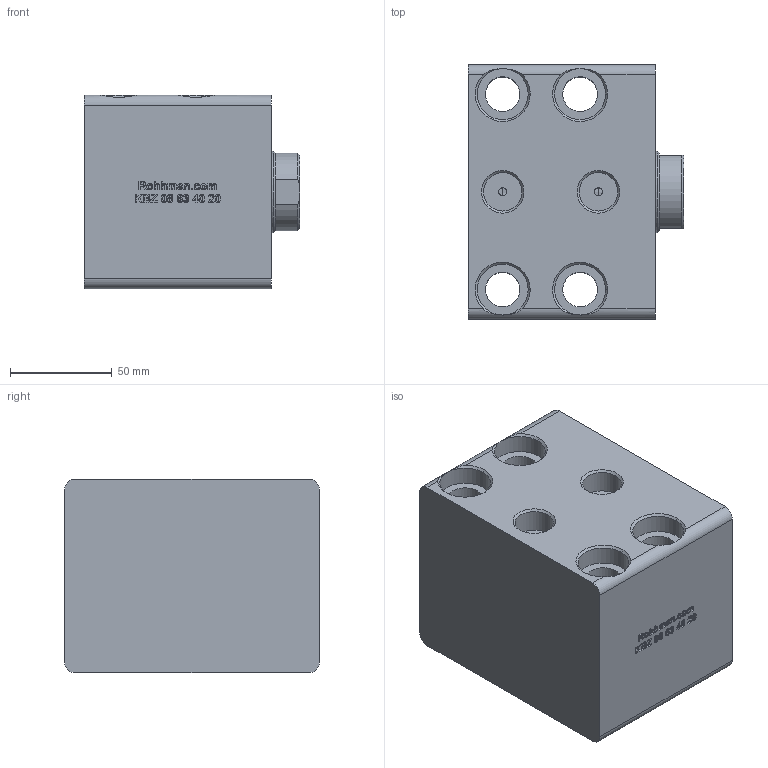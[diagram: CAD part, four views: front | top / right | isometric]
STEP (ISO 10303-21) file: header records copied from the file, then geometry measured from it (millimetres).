
FILE_DESCRIPTION(/* description */ (''),/* implementation_level */ '2;1');
FILE_NAME(/* name */ 'KBZ_08_63_40_20_WEB.step',/* time_stamp */ '2023-09-05T15:58:35+03:00',/* author */ (''),/* organization */ (''),/* preprocessor_version */ 'ST-DEVELOPER v20',/* originating_system */ 'Autodesk Translation Framework v12.9.0.99',/* authorisation */ '');
FILE_SCHEMA (('AUTOMOTIVE_DESIGN { 1 0 10303 214 3 1 1 }'));
Length unit declared in the file: millimetre
Products named in the file (7): KBZ_08_63_40_100_MONTAJ; KAPAK; KAPAK_1; GÖVDE; GÖVDE_1; Ø40_MİL; Bileşen1
Assembly tree (6 placements, depth 3):
  KBZ_08_63_40_100_MONTAJ
    KAPAK
      KAPAK_1
    GÖVDE
      GÖVDE_1
    Ø40_MİL
      Bileşen1
Bounding box: 106 x 125 x 95 mm (x, y, z)
Volume: 843075.6 mm3; surface area: 129490.2 mm2
Topology: 3 solids, 3 shells, 583 faces, 1590 edges, 1050 vertices
Faces by surface type: bspline 349, plane 184, cylinder 28, cone 22
Full cylindrical faces by diameter (mm): 3 x2, 4 x2, 17 x4, 18.901 x2, 24.002 x1, 25 x4, 40 x1, 40.5 x1, 63 x2, 66 x1, 80 x2
Entity records: 21888 total; most frequent: CARTESIAN_POINT 9303, ORIENTED_EDGE 3180, EDGE_CURVE 1590, DIRECTION 1461, VERTEX_POINT 1050, LINE 785, VECTOR 785, B_SPLINE_CURVE_WITH_KNOTS 711
